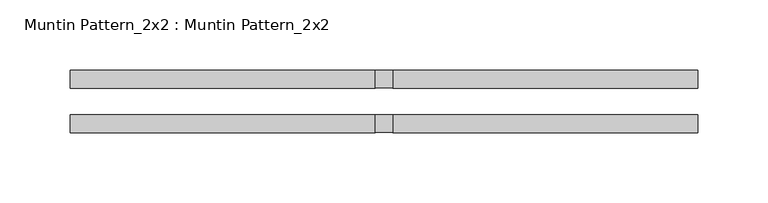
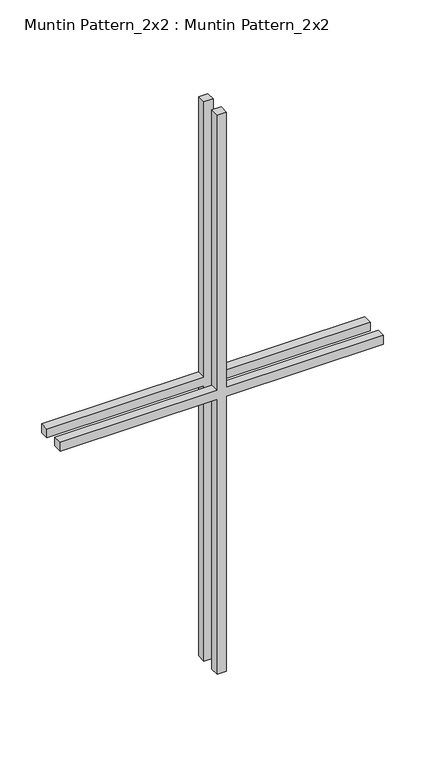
"""IFC4 building model written with IfcOpenShell, lengths in millimetres: proxy geometry, Muntin Pattern_2x2 : Muntin Pattern_2x2."""

from ifc_helpers import new_model, si_unit, frame, origin, place, context, project, spatial, polyline, outline, extrude, source, transform, mapped, element, save


def muntin_pattern_2x2_muntin_pattern_2x2_2203c52f(model_context):
    return source(origin(), model_context, "Body", "SweptSolid", [
        extrude(outline(polyline([(415.925, -6.35), (415.925, -223.8375), (403.225, -223.8375), (403.225, -6.35), (0.0, -6.35), (0.0, 6.35), (403.225, 6.35), (403.225, 223.8375), (415.925, 223.8375), (415.925, 6.35), (819.15, 6.35), (819.15, -6.35), (415.925, -6.35)])), frame((0.0, 9.525, 0.0), z_axis=(0.0, 1.0, 0.0), x_axis=(0.0, 0.0, 1.0)), (0.0, 0.0, 1.0), 12.7),
        extrude(outline(polyline([(415.925, -6.35), (415.925, -223.8375), (403.225, -223.8375), (403.225, -6.35), (0.0, -6.35), (0.0, 6.35), (403.225, 6.35), (403.225, 223.8375), (415.925, 223.8375), (415.925, 6.35), (819.15, 6.35), (819.15, -6.35), (415.925, -6.35)])), frame((0.0, -22.225, 0.0), z_axis=(0.0, 1.0, 0.0), x_axis=(0.0, 0.0, 1.0)), (0.0, 0.0, 1.0), 12.7),
    ])


if __name__ == "__main__":
    model = new_model("IFC4")
    model_context = context("Model", 3, world=origin())
    ifc_project = project(units=[si_unit("LENGTHUNIT", "METRE", prefix="MILLI")], contexts=[model_context])
    site = spatial("IfcSite", under=ifc_project)
    building = spatial("IfcBuilding", under=site)
    placement = place(None, origin())
    muntin_pattern_2x2_muntin_pattern_2x2_shape = muntin_pattern_2x2_muntin_pattern_2x2_2203c52f(model_context)
    element("IfcBuildingElementProxy", 1, Name="Muntin Pattern_2x2 : Muntin Pattern_2x2", ObjectType="Muntin Pattern_2x2 : Muntin Pattern_2x2", at=placement, inside=building, context=model_context, shape_type="MappedRepresentation", body=[
        mapped(muntin_pattern_2x2_muntin_pattern_2x2_shape, transform((0.0, 0.0, 0.0), x_axis=(1.0, 0.0, 0.0), y_axis=(0.0, 1.0, 0.0), z_axis=(0.0, 0.0, 1.0))),
    ])
    save(model, "model.ifc")
